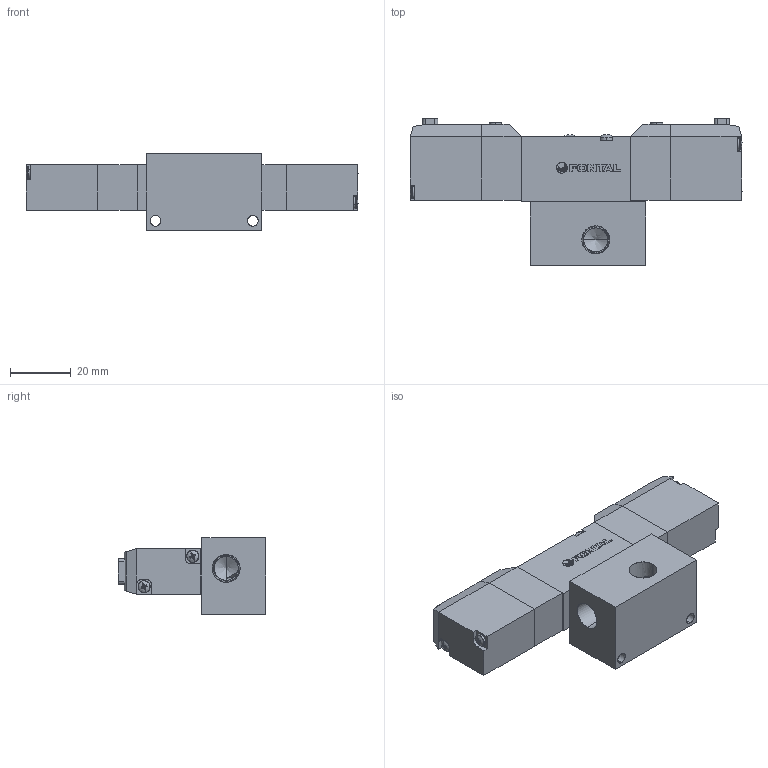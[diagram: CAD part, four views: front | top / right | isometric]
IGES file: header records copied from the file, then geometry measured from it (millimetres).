
Start section: SolidWorks IGES file using analytic representation for surfaces
Global section: file name: D:\Custom\3D繪製\PC\PC5\PCD345#-01-#-L-#.IGS,1; native system: 5HSolidWorks 2014; preprocessor: SolidWorks 2014; author: Chieh_Lu; date: 150729.232132; units: millimetre
Bounding box: 109.14 x 48.5 x 25 mm (x, y, z)
Surface area: 20942.9 mm2 (no closed solid volume)
Topology: 0 solids, 0 shells, 541 faces, 5314 edges, 5288 vertices
Faces by surface type: bspline 326, revolution 215
